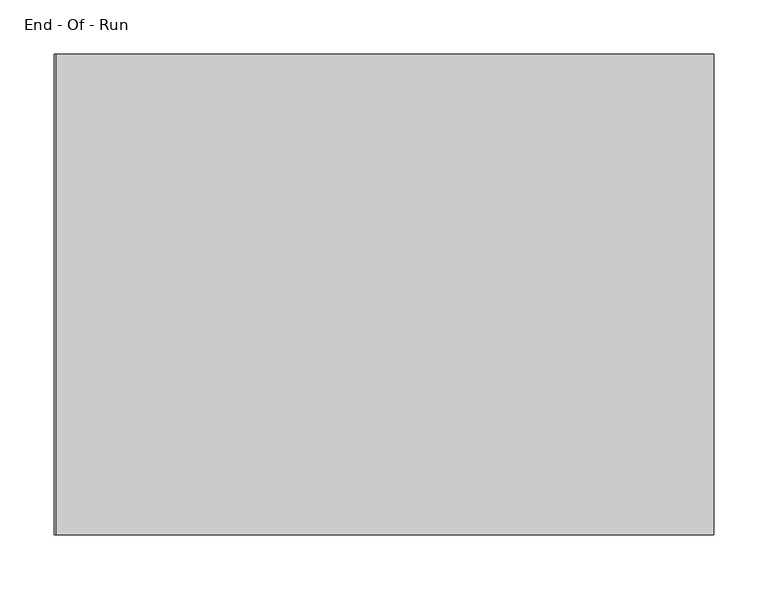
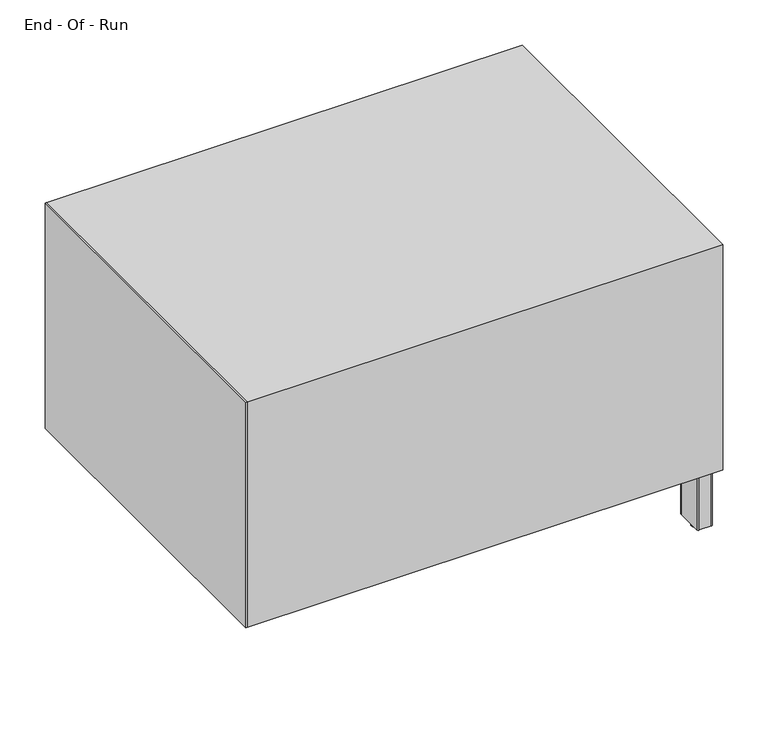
"""IFC4 building model written with IfcOpenShell, lengths in millimetres: furniture geometry, Steelcase Coalesse - Exponents - Seating - Bench Bridge : End - Of - Run."""

from ifc_helpers import new_model, si_unit, point, frame, frame_2d, origin, origin_with_axes, place, context, project, spatial, polyline, circle_curve, trimmed, segment, composite_curve, outline, extrude, source, transform, mapped, element, save


def end_of_run_6638916e(model_context):
    return source(origin(), model_context, "Body", "SweptSolid", [
        extrude(outline(composite_curve([segment(trimmed(circle_curve(frame_2d((590.5361658, 190.6667719)), 6.35), [point((584.1861658, 190.6667719))], [point((596.8861658, 190.6667719))], False, "CARTESIAN"), True, "CONTINUOUS"), segment(trimmed(circle_curve(frame_2d((590.5361658, 190.6667719)), 6.35), [point((596.8861658, 190.6667719))], [point((584.1861658, 190.6667719))], False, "CARTESIAN"), True, "CONTINUOUS")], self_intersect=False)), origin_with_axes(), (0.0, 0.0, 1.0), 304.8),
        extrude(outline(composite_curve([segment(polyline([(598.7573716, 171.7872906), (582.7553716, 171.7872906)]), True, "CONTINUOUS"), segment(trimmed(circle_curve(frame_2d((582.7553716, 173.3112906)), 1.524), [point((582.7553716, 171.7872906))], [point((581.2313716, 173.3112906))], False, "CARTESIAN"), True, "CONTINUOUS"), segment(polyline([(581.2313716, 173.3112906), (581.2313716, 208.2504616)]), True, "CONTINUOUS"), segment(trimmed(circle_curve(frame_2d((582.8682006, 208.2504616)), 1.636829), [point((581.2313716, 208.2504616))], [point((582.8682006, 209.8872906))], False, "CARTESIAN"), True, "CONTINUOUS"), segment(polyline([(582.8682006, 209.8872906), (598.7573716, 209.8872906)]), True, "CONTINUOUS"), segment(trimmed(circle_curve(frame_2d((598.7573716, 208.3632906)), 1.524), [point((598.7573716, 209.8872906))], [point((600.2813716, 208.3632906))], False, "CARTESIAN"), True, "CONTINUOUS"), segment(polyline([(600.2813716, 208.3632906), (600.2813716, 173.3112906)]), True, "CONTINUOUS"), segment(trimmed(circle_curve(frame_2d((598.7573716, 173.3112906)), 1.524), [point((600.2813716, 173.3112906))], [point((598.7573716, 171.7872906))], False, "CARTESIAN"), True, "CONTINUOUS")], self_intersect=False)), frame((0.0, 0.0, 6.3754), z_axis=(0.0, 0.0, 1.0), x_axis=(1.0, 0.0, 0.0)), (0.0, 0.0, 1.0), 73.152),
        extrude(outline(polyline([(603.25, 171.45), (501.65, 171.45), (501.65, 273.05), (603.25, 273.05), (603.25, 171.45)])), frame((0.0, 0.0, 79.5274), z_axis=(0.0, 0.0, 1.0), x_axis=(1.0, 0.0, 0.0)), (0.0, 0.0, 1.0), 3.048),
        extrude(outline(composite_curve([segment(trimmed(circle_curve(frame_2d((590.5361658, 584.0332281)), 6.35), [point((584.1861658, 584.0332281))], [point((596.8861658, 584.0332281))], False, "CARTESIAN"), True, "CONTINUOUS"), segment(trimmed(circle_curve(frame_2d((590.5361658, 584.0332281)), 6.35), [point((596.8861658, 584.0332281))], [point((584.1861658, 584.0332281))], False, "CARTESIAN"), True, "CONTINUOUS")], self_intersect=False)), origin_with_axes(), (0.0, 0.0, 1.0), 304.8),
        extrude(outline(composite_curve([segment(trimmed(circle_curve(frame_2d((598.7573716, 601.3887094)), 1.524), [point((598.7573716, 602.9127094))], [point((600.2813716, 601.3887094))], False, "CARTESIAN"), True, "CONTINUOUS"), segment(polyline([(600.2813716, 601.3887094), (600.2813716, 566.3367094)]), True, "CONTINUOUS"), segment(trimmed(circle_curve(frame_2d((598.7573716, 566.3367094)), 1.524), [point((600.2813716, 566.3367094))], [point((598.7573716, 564.8127094))], False, "CARTESIAN"), True, "CONTINUOUS"), segment(polyline([(598.7573716, 564.8127094), (582.8682006, 564.8127094)]), True, "CONTINUOUS"), segment(trimmed(circle_curve(frame_2d((582.8682006, 566.4495384)), 1.636829), [point((582.8682006, 564.8127094))], [point((581.2313716, 566.4495384))], False, "CARTESIAN"), True, "CONTINUOUS"), segment(polyline([(581.2313716, 566.4495384), (581.2313716, 601.3887094)]), True, "CONTINUOUS"), segment(trimmed(circle_curve(frame_2d((582.7553716, 601.3887094)), 1.524), [point((581.2313716, 601.3887094))], [point((582.7553716, 602.9127094))], False, "CARTESIAN"), True, "CONTINUOUS"), segment(polyline([(582.7553716, 602.9127094), (598.7573716, 602.9127094)]), True, "CONTINUOUS")], self_intersect=False)), frame((0.0, 0.0, 6.3754), z_axis=(0.0, 0.0, 1.0), x_axis=(1.0, 0.0, 0.0)), (0.0, 0.0, 1.0), 73.152),
        extrude(outline(polyline([(603.25, 603.25), (603.25, 501.65), (501.65, 501.65), (501.65, 603.25), (603.25, 603.25)])), frame((0.0, 0.0, 79.5274), z_axis=(0.0, 0.0, 1.0), x_axis=(1.0, 0.0, 0.0)), (0.0, 0.0, 1.0), 3.048),
        extrude(outline(polyline([(0.0, 165.1), (0.0, 609.6), (1.5875, 609.6), (1.5875, 165.1), (0.0, 165.1)])), frame((0.0, 0.0, 82.5754), z_axis=(0.0, 0.0, 1.0), x_axis=(1.0, 0.0, 0.0)), (0.0, 0.0, 1.0), 304.7746),
        extrude(outline(polyline([(609.6, 609.6), (609.6, 165.1), (0.0, 165.1), (0.0, 609.6), (609.6, 609.6)])), frame((0.0, 0.0, 82.5754), z_axis=(0.0, 0.0, 1.0), x_axis=(1.0, 0.0, 0.0)), (0.0, 0.0, 1.0), 304.7746),
    ])


if __name__ == "__main__":
    model = new_model("IFC4")
    model_context = context("Model", 3, world=origin())
    ifc_project = project(units=[si_unit("LENGTHUNIT", "METRE", prefix="MILLI")], contexts=[model_context])
    site = spatial("IfcSite", under=ifc_project)
    building = spatial("IfcBuilding", under=site)
    placement = place(None, origin())
    end_of_run_shape = end_of_run_6638916e(model_context)
    element("IfcFurniture", 1, ObjectType="Steelcase Coalesse - Exponents - Seating - Bench Bridge : End - Of - Run", at=placement, inside=building, context=model_context, shape_type="MappedRepresentation", body=[
        mapped(end_of_run_shape, transform((0.0, 0.0, 0.0), x_axis=(1.0, 0.0, 0.0), y_axis=(0.0, 1.0, 0.0), z_axis=(0.0, 0.0, 1.0))),
    ])
    save(model, "model.ifc")
